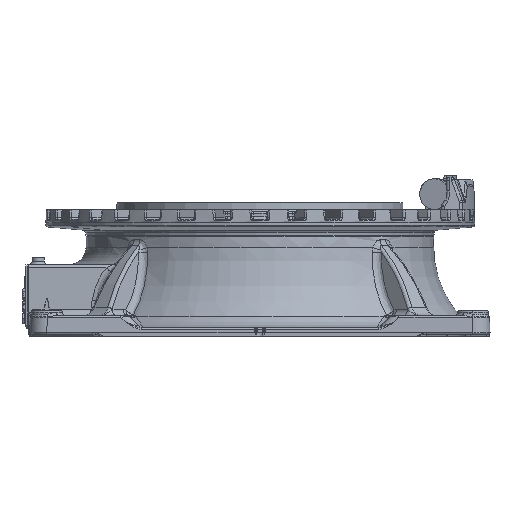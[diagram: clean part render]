
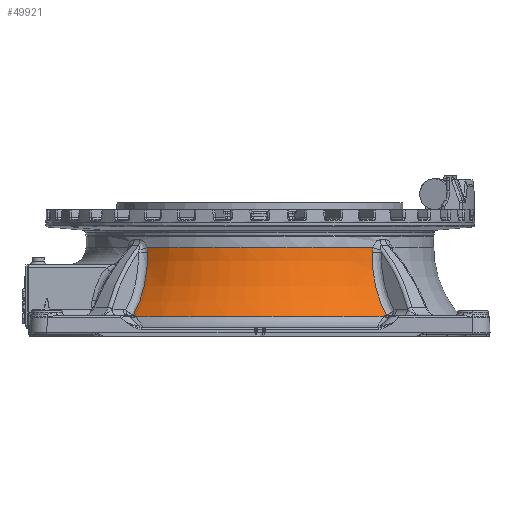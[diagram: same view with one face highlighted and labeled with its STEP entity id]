
A CAD part, front view. The second image highlights one B-rep face of the part: STEP entity #49921.
In plain terms, the highlighted toroidal (fillet/blend) face has major radius 810 mm and minor radius 300 mm.
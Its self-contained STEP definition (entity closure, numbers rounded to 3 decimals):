
#4705=AXIS2_PLACEMENT_3D('Torus Axis2P3D',#4702,#4703,#4704) ;
#8570=AXIS2_PLACEMENT_3D('Circle Axis2P3D',#8568,#8569,$) ;
#14738=AXIS2_PLACEMENT_3D('Circle Axis2P3D',#14736,#14737,$) ;
#4702=CARTESIAN_POINT('Axis2P3D Location',(0.,0.,260.)) ;
#8565=CARTESIAN_POINT('Vertex',(-331.743,-387.358,260.)) ;
#8568=CARTESIAN_POINT('Axis2P3D Location',(0.,0.,260.)) ;
#8572=CARTESIAN_POINT('Vertex',(331.743,-387.358,260.)) ;
#14430=CARTESIAN_POINT('Vertex',(370.471,-451.373,62.777)) ;
#14434=CARTESIAN_POINT('Control Point',(370.471,-451.373,62.777)) ;
#14435=CARTESIAN_POINT('Control Point',(370.101,-451.921,62.56)) ;
#14436=CARTESIAN_POINT('Control Point',(369.74,-452.473,62.334)) ;
#14437=CARTESIAN_POINT('Control Point',(369.387,-453.028,62.098)) ;
#14438=CARTESIAN_POINT('Control Point',(368.433,-454.571,61.421)) ;
#14439=CARTESIAN_POINT('Control Point',(367.541,-456.14,60.676)) ;
#14440=CARTESIAN_POINT('Control Point',(366.997,-457.151,60.175)) ;
#14441=CARTESIAN_POINT('Control Point',(366.479,-458.17,59.648)) ;
#14442=CARTESIAN_POINT('Control Point',(365.986,-459.198,59.097)) ;
#14443=CARTESIAN_POINT('Vertex',(365.986,-459.198,59.097)) ;
#14553=CARTESIAN_POINT('Control Point',(365.986,-459.198,59.097)) ;
#14554=CARTESIAN_POINT('Control Point',(365.7,-459.794,58.778)) ;
#14555=CARTESIAN_POINT('Control Point',(365.415,-460.39,58.458)) ;
#14556=CARTESIAN_POINT('Control Point',(365.129,-460.987,58.139)) ;
#14557=CARTESIAN_POINT('Control Point',(364.843,-461.584,57.819)) ;
#14558=CARTESIAN_POINT('Control Point',(364.558,-462.182,57.5)) ;
#14559=CARTESIAN_POINT('Vertex',(364.558,-462.182,57.5)) ;
#14728=CARTESIAN_POINT('Vertex',(-364.558,-462.182,57.5)) ;
#14736=CARTESIAN_POINT('Axis2P3D Location',(0.,0.,57.5)) ;
#32099=CARTESIAN_POINT('Vertex',(-370.471,-451.373,62.777)) ;
#42067=CARTESIAN_POINT('Vertex',(329.876,-389.378,246.007)) ;
#42071=CARTESIAN_POINT('Control Point',(370.471,-451.373,62.777)) ;
#42072=CARTESIAN_POINT('Control Point',(369.032,-449.613,65.382)) ;
#42073=CARTESIAN_POINT('Control Point',(367.622,-447.878,68.02)) ;
#42074=CARTESIAN_POINT('Control Point',(366.241,-446.169,70.691)) ;
#42075=CARTESIAN_POINT('Control Point',(358.174,-436.126,86.811)) ;
#42076=CARTESIAN_POINT('Control Point',(351.16,-427.035,104.016)) ;
#42077=CARTESIAN_POINT('Control Point',(346.096,-420.183,118.994)) ;
#42078=CARTESIAN_POINT('Control Point',(336.962,-407.117,152.321)) ;
#42079=CARTESIAN_POINT('Control Point',(331.647,-397.728,187.66)) ;
#42080=CARTESIAN_POINT('Control Point',(329.929,-393.814,206.938)) ;
#42081=CARTESIAN_POINT('Control Point',(329.341,-391.028,226.444)) ;
#42082=CARTESIAN_POINT('Control Point',(329.876,-389.378,246.007)) ;
#42154=CARTESIAN_POINT('Control Point',(329.876,-389.378,246.007)) ;
#42155=CARTESIAN_POINT('Control Point',(329.953,-389.14,248.821)) ;
#42156=CARTESIAN_POINT('Control Point',(330.166,-388.83,251.65)) ;
#42157=CARTESIAN_POINT('Control Point',(330.527,-388.438,254.479)) ;
#42158=CARTESIAN_POINT('Control Point',(331.052,-387.95,257.275)) ;
#42159=CARTESIAN_POINT('Control Point',(331.743,-387.358,260.)) ;
#42259=CARTESIAN_POINT('Control Point',(-370.471,-451.373,62.777)) ;
#42260=CARTESIAN_POINT('Control Point',(-369.032,-449.613,65.382)) ;
#42261=CARTESIAN_POINT('Control Point',(-367.622,-447.878,68.02)) ;
#42262=CARTESIAN_POINT('Control Point',(-366.241,-446.169,70.691)) ;
#42263=CARTESIAN_POINT('Control Point',(-358.174,-436.126,86.811)) ;
#42264=CARTESIAN_POINT('Control Point',(-351.16,-427.035,104.016)) ;
#42265=CARTESIAN_POINT('Control Point',(-346.096,-420.183,118.994)) ;
#42266=CARTESIAN_POINT('Control Point',(-336.962,-407.117,152.321)) ;
#42267=CARTESIAN_POINT('Control Point',(-331.647,-397.728,187.66)) ;
#42268=CARTESIAN_POINT('Control Point',(-329.929,-393.814,206.938)) ;
#42269=CARTESIAN_POINT('Control Point',(-329.341,-391.028,226.444)) ;
#42270=CARTESIAN_POINT('Control Point',(-329.876,-389.378,246.007)) ;
#42271=CARTESIAN_POINT('Vertex',(-329.876,-389.378,246.007)) ;
#42352=CARTESIAN_POINT('Vertex',(-365.986,-459.198,59.097)) ;
#42356=CARTESIAN_POINT('Control Point',(-365.986,-459.198,59.097)) ;
#42357=CARTESIAN_POINT('Control Point',(-366.279,-458.587,59.424)) ;
#42358=CARTESIAN_POINT('Control Point',(-366.581,-457.979,59.743)) ;
#42359=CARTESIAN_POINT('Control Point',(-366.892,-457.374,60.054)) ;
#42360=CARTESIAN_POINT('Control Point',(-367.735,-455.788,60.848)) ;
#42361=CARTESIAN_POINT('Control Point',(-368.641,-454.224,61.577)) ;
#42362=CARTESIAN_POINT('Control Point',(-369.227,-453.264,62.005)) ;
#42363=CARTESIAN_POINT('Control Point',(-369.837,-452.313,62.405)) ;
#42364=CARTESIAN_POINT('Control Point',(-370.471,-451.373,62.777)) ;
#42420=CARTESIAN_POINT('Control Point',(-365.986,-459.198,59.097)) ;
#42421=CARTESIAN_POINT('Control Point',(-365.7,-459.794,58.778)) ;
#42422=CARTESIAN_POINT('Control Point',(-365.415,-460.39,58.458)) ;
#42423=CARTESIAN_POINT('Control Point',(-365.129,-460.987,58.139)) ;
#42424=CARTESIAN_POINT('Control Point',(-364.843,-461.584,57.819)) ;
#42425=CARTESIAN_POINT('Control Point',(-364.558,-462.182,57.5)) ;
#42610=CARTESIAN_POINT('Control Point',(-329.876,-389.378,246.007)) ;
#42611=CARTESIAN_POINT('Control Point',(-329.953,-389.14,248.821)) ;
#42612=CARTESIAN_POINT('Control Point',(-330.166,-388.83,251.65)) ;
#42613=CARTESIAN_POINT('Control Point',(-330.527,-388.438,254.479)) ;
#42614=CARTESIAN_POINT('Control Point',(-331.052,-387.95,257.275)) ;
#42615=CARTESIAN_POINT('Control Point',(-331.743,-387.358,260.)) ;
#4703=DIRECTION('Axis2P3D Direction',(0.,0.,1.)) ;
#4704=DIRECTION('Axis2P3D XDirection',(0.878,0.479,0.)) ;
#8569=DIRECTION('Axis2P3D Direction',(0.,0.,1.)) ;
#14737=DIRECTION('Axis2P3D Direction',(0.,0.,1.)) ;
#49910=ORIENTED_EDGE('',*,*,#42083,.F.) ;
#49911=ORIENTED_EDGE('',*,*,#42160,.F.) ;
#49912=ORIENTED_EDGE('',*,*,#8574,.T.) ;
#49913=ORIENTED_EDGE('',*,*,#42616,.F.) ;
#49914=ORIENTED_EDGE('',*,*,#42273,.F.) ;
#49915=ORIENTED_EDGE('',*,*,#42365,.F.) ;
#49916=ORIENTED_EDGE('',*,*,#42426,.F.) ;
#49917=ORIENTED_EDGE('',*,*,#14740,.F.) ;
#49918=ORIENTED_EDGE('',*,*,#14561,.F.) ;
#49919=ORIENTED_EDGE('',*,*,#14445,.F.) ;
#49921=ADVANCED_FACE('S1-001.1\\\X2\FF8AFF9FFF70FF82\X0\ \X2\FF8EFF9EFF83FF9EFF68FF70\X0\',(#49920),#4706,.F.) ;
#14433=B_SPLINE_CURVE_WITH_KNOTS('',5,(#14434,#14435,#14436,#14437,#14438,#14439,#14440,#14441,#14442),.UNSPECIFIED.,.F.,.U.,(6,3,6),(126.737,132.139,141.668),.UNSPECIFIED.) ;
#14552=B_SPLINE_CURVE_WITH_KNOTS('',5,(#14553,#14554,#14555,#14556,#14557,#14558),.UNSPECIFIED.,.F.,.U.,(6,6),(394.83,400.729),.UNSPECIFIED.) ;
#42070=B_SPLINE_CURVE_WITH_KNOTS('',5,(#42071,#42072,#42073,#42074,#42075,#42076,#42077,#42078,#42079,#42080,#42081,#42082),.UNSPECIFIED.,.F.,.U.,(6,3,3,6),(125.09,148.739,266.208,400.878),.UNSPECIFIED.) ;
#42153=B_SPLINE_CURVE_WITH_KNOTS('',5,(#42154,#42155,#42156,#42157,#42158,#42159),.UNSPECIFIED.,.F.,.U.,(6,6),(0.,19.375),.UNSPECIFIED.) ;
#42258=B_SPLINE_CURVE_WITH_KNOTS('',5,(#42259,#42260,#42261,#42262,#42263,#42264,#42265,#42266,#42267,#42268,#42269,#42270),.UNSPECIFIED.,.F.,.U.,(6,3,3,6),(125.089,148.739,266.208,400.878),.UNSPECIFIED.) ;
#42355=B_SPLINE_CURVE_WITH_KNOTS('',5,(#42356,#42357,#42358,#42359,#42360,#42361,#42362,#42363,#42364),.UNSPECIFIED.,.F.,.U.,(6,3,6),(71.812,77.475,86.742),.UNSPECIFIED.) ;
#42419=B_SPLINE_CURVE_WITH_KNOTS('',5,(#42420,#42421,#42422,#42423,#42424,#42425),.UNSPECIFIED.,.F.,.U.,(6,6),(394.83,400.729),.UNSPECIFIED.) ;
#42609=B_SPLINE_CURVE_WITH_KNOTS('',5,(#42610,#42611,#42612,#42613,#42614,#42615),.UNSPECIFIED.,.F.,.U.,(6,6),(0.,19.375),.UNSPECIFIED.) ;
#8571=CIRCLE('generated circle',#8570,510.) ;
#14739=CIRCLE('generated circle',#14738,588.655) ;
#4706=TOROIDAL_SURFACE('homeo Torus',#4705,810.,300.) ;
#8574=EDGE_CURVE('',#8573,#8566,#8571,.F.) ;
#14445=EDGE_CURVE('',#14431,#14444,#14433,.T.) ;
#14561=EDGE_CURVE('',#14444,#14560,#14552,.T.) ;
#14740=EDGE_CURVE('',#14560,#14729,#14739,.F.) ;
#42083=EDGE_CURVE('',#42068,#14431,#42070,.F.) ;
#42160=EDGE_CURVE('',#8573,#42068,#42153,.F.) ;
#42273=EDGE_CURVE('',#32100,#42272,#42258,.T.) ;
#42365=EDGE_CURVE('',#42353,#32100,#42355,.T.) ;
#42426=EDGE_CURVE('',#14729,#42353,#42419,.F.) ;
#42616=EDGE_CURVE('',#42272,#8566,#42609,.T.) ;
#49909=EDGE_LOOP('',(#49910,#49911,#49912,#49913,#49914,#49915,#49916,#49917,#49918,#49919)) ;
#49920=FACE_OUTER_BOUND('',#49909,.T.) ;
#8566=VERTEX_POINT('',#8565) ;
#8573=VERTEX_POINT('',#8572) ;
#14431=VERTEX_POINT('',#14430) ;
#14444=VERTEX_POINT('',#14443) ;
#14560=VERTEX_POINT('',#14559) ;
#14729=VERTEX_POINT('',#14728) ;
#32100=VERTEX_POINT('',#32099) ;
#42068=VERTEX_POINT('',#42067) ;
#42272=VERTEX_POINT('',#42271) ;
#42353=VERTEX_POINT('',#42352) ;
